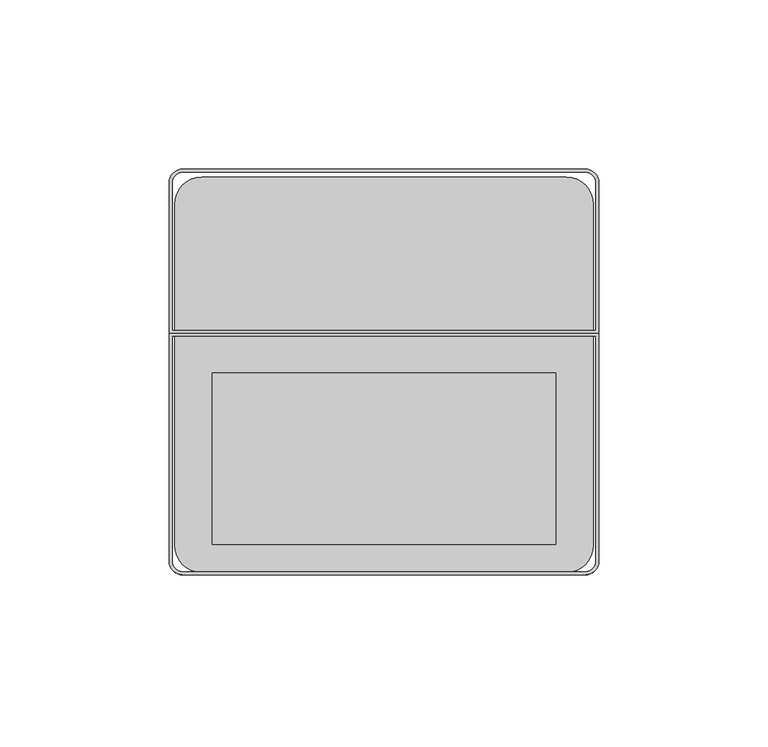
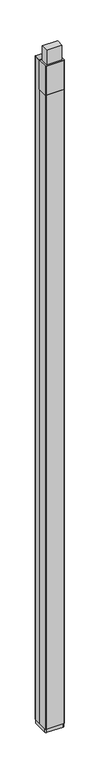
"""IFC4 building model written with IfcOpenShell, lengths in millimetres: proxy geometry, Jumbo_Tele_Pole-Wiremold-Blank_Aluminum_Pole : NP800C-15-2B."""

from ifc_helpers import new_model, si_unit, point, frame, frame_2d, origin, origin_with_axes, place, context, project, spatial, polyline, circle_curve, trimmed, segment, composite_curve, outline, extrude, source, transform, mapped, element, save


def electrical_fixtures_2f8abb04(model_context):
    return source(origin(), model_context, "Body", "SweptSolid", [
        extrude(outline(polyline([(50.8, 7.35), (-50.8, 7.35), (-50.8, 58.15), (50.8, 58.15), (50.8, 7.35)])), frame((0.0, 0.0, 4622.8), z_axis=(0.0, 0.0, 1.0), x_axis=(1.0, 0.0, 0.0)), (0.0, 0.0, 1.0), 101.6),
        extrude(outline(composite_curve([segment(polyline([(-63.5, 69.85), (63.5, 69.85), (63.5, 2.4125)]), True, "CONTINUOUS"), segment(trimmed(circle_curve(frame_2d((59.5, 2.4125)), 4.0), [point((63.5, 2.4125))], [point((59.5, -1.5875))], False, "CARTESIAN"), True, "CONTINUOUS"), segment(polyline([(59.5, -1.5875), (-59.5, -1.5875)]), True, "CONTINUOUS"), segment(trimmed(circle_curve(frame_2d((-59.5, 2.4125)), 4.0), [point((-59.5, -1.5875))], [point((-63.5, 2.4125))], False, "CARTESIAN"), True, "CONTINUOUS"), segment(polyline([(-63.5, 2.4125), (-63.5, 69.85)]), True, "CONTINUOUS")], self_intersect=False), holes=[composite_curve([segment(trimmed(circle_curve(frame_2d((-59.5, 2.4125)), 3.0), [point((-62.5, 2.4125))], [point((-59.5, -0.5875))], True, "CARTESIAN"), True, "CONTINUOUS"), segment(polyline([(-59.5, -0.5875), (59.5, -0.5875)]), True, "CONTINUOUS"), segment(trimmed(circle_curve(frame_2d((59.5, 2.4125)), 3.0), [point((59.5, -0.5875))], [point((62.5, 2.4125))], True, "CARTESIAN"), True, "CONTINUOUS"), segment(polyline([(62.5, 2.4125), (62.5, 68.85), (-62.5, 68.85), (-62.5, 2.4125)]), True, "CONTINUOUS")], self_intersect=False)]), frame((0.0, 0.0, 4419.6), z_axis=(0.0, 0.0, 1.0), x_axis=(1.0, 0.0, 0.0)), (0.0, 0.0, 1.0), 203.2),
        extrude(outline(composite_curve([segment(trimmed(circle_curve(frame_2d((59.5, 114.4125)), 4.0), [point((59.5, 118.4125))], [point((63.5, 114.4125))], False, "CARTESIAN"), True, "CONTINUOUS"), segment(polyline([(63.5, 114.4125), (63.5, 69.85), (-63.5, 69.85), (-63.5, 114.4125)]), True, "CONTINUOUS"), segment(trimmed(circle_curve(frame_2d((-59.5, 114.4125)), 4.0), [point((-63.5, 114.4125))], [point((-59.5, 118.4125))], False, "CARTESIAN"), True, "CONTINUOUS"), segment(polyline([(-59.5, 118.4125), (59.5, 118.4125)]), True, "CONTINUOUS")], self_intersect=False), holes=[composite_curve([segment(polyline([(62.5, 70.85), (62.5, 114.4125)]), True, "CONTINUOUS"), segment(trimmed(circle_curve(frame_2d((59.5, 114.4125)), 3.0), [point((62.5, 114.4125))], [point((59.5, 117.4125))], True, "CARTESIAN"), True, "CONTINUOUS"), segment(polyline([(59.5, 117.4125), (-59.5, 117.4125)]), True, "CONTINUOUS"), segment(trimmed(circle_curve(frame_2d((-59.5, 114.4125)), 3.0), [point((-59.5, 117.4125))], [point((-62.5, 114.4125))], True, "CARTESIAN"), True, "CONTINUOUS"), segment(polyline([(-62.5, 114.4125), (-62.5, 70.85), (62.5, 70.85)]), True, "CONTINUOUS")], self_intersect=False)]), origin_with_axes(), (0.0, 0.0, 1.0), 4622.8),
        extrude(outline(composite_curve([segment(polyline([(63.5, 69.85), (63.5, 2.4125)]), True, "CONTINUOUS"), segment(trimmed(circle_curve(frame_2d((59.5, 2.4125)), 4.0), [point((63.5, 2.4125))], [point((59.5, -1.5875))], False, "CARTESIAN"), True, "CONTINUOUS"), segment(polyline([(59.5, -1.5875), (-59.5, -1.5875)]), True, "CONTINUOUS"), segment(trimmed(circle_curve(frame_2d((-59.5, 2.4125)), 4.0), [point((-59.5, -1.5875))], [point((-63.5, 2.4125))], False, "CARTESIAN"), True, "CONTINUOUS"), segment(polyline([(-63.5, 2.4125), (-63.5, 69.85), (63.5, 69.85)]), True, "CONTINUOUS")], self_intersect=False), holes=[composite_curve([segment(polyline([(-62.5, 69.05), (-62.5, 2.4125)]), True, "CONTINUOUS"), segment(trimmed(circle_curve(frame_2d((-59.5, 2.4125)), 3.0), [point((-62.5, 2.4125))], [point((-59.5, -0.5875))], True, "CARTESIAN"), True, "CONTINUOUS"), segment(polyline([(-59.5, -0.5875), (59.5, -0.5875)]), True, "CONTINUOUS"), segment(trimmed(circle_curve(frame_2d((59.5, 2.4125)), 3.0), [point((59.5, -0.5875))], [point((62.5, 2.4125))], True, "CARTESIAN"), True, "CONTINUOUS"), segment(polyline([(62.5, 2.4125), (62.5, 69.05), (-62.5, 69.05)]), True, "CONTINUOUS")], self_intersect=False)]), origin_with_axes(), (0.0, 0.0, 1.0), 4419.6),
        extrude(outline(composite_curve([segment(trimmed(circle_curve(frame_2d((53.9125, 108.825)), 8.0), [point((53.9125, 116.825))], [point((61.9125, 108.825))], False, "CARTESIAN"), True, "CONTINUOUS"), segment(polyline([(61.9125, 108.825), (61.9125, 8.0)]), True, "CONTINUOUS"), segment(trimmed(circle_curve(frame_2d((53.9125, 8.0)), 8.0), [point((61.9125, 8.0))], [point((53.9125, 0.0))], False, "CARTESIAN"), True, "CONTINUOUS"), segment(polyline([(53.9125, 0.0), (-53.9125, 0.0)]), True, "CONTINUOUS"), segment(trimmed(circle_curve(frame_2d((-53.9125, 8.0)), 8.0), [point((-53.9125, 0.0))], [point((-61.9125, 8.0))], False, "CARTESIAN"), True, "CONTINUOUS"), segment(polyline([(-61.9125, 8.0), (-61.9125, 108.825)]), True, "CONTINUOUS"), segment(trimmed(circle_curve(frame_2d((-53.9125, 108.825)), 8.0), [point((-61.9125, 108.825))], [point((-53.9125, 116.825))], False, "CARTESIAN"), True, "CONTINUOUS"), segment(polyline([(-53.9125, 116.825), (53.9125, 116.825)]), True, "CONTINUOUS")], self_intersect=False)), frame((0.0, 0.0, -25.4), z_axis=(0.0, 0.0, 1.0), x_axis=(1.0, 0.0, 0.0)), (0.0, 0.0, 1.0), 25.4),
    ])


if __name__ == "__main__":
    model = new_model("IFC4")
    model_context = context("Model", 3, world=origin())
    ifc_project = project(units=[si_unit("LENGTHUNIT", "METRE", prefix="MILLI")], contexts=[model_context])
    site = spatial("IfcSite", under=ifc_project)
    building = spatial("IfcBuilding", under=site)
    placement = place(None, origin())
    electrical_fixtures_shape = electrical_fixtures_2f8abb04(model_context)
    element("IfcBuildingElementProxy", 1, Name="Jumbo_Tele_Pole-Wiremold-Blank_Aluminum_Pole : NP800C-15-2B", ObjectType="Jumbo_Tele_Pole-Wiremold-Blank_Aluminum_Pole : NP800C-15-2B", at=placement, inside=building, context=model_context, shape_type="MappedRepresentation", body=[
        mapped(electrical_fixtures_shape, transform((0.0, 0.0, 0.0), x_axis=(1.0, 0.0, 0.0), y_axis=(0.0, 1.0, 0.0), z_axis=(0.0, 0.0, 1.0))),
    ])
    save(model, "model.ifc")
